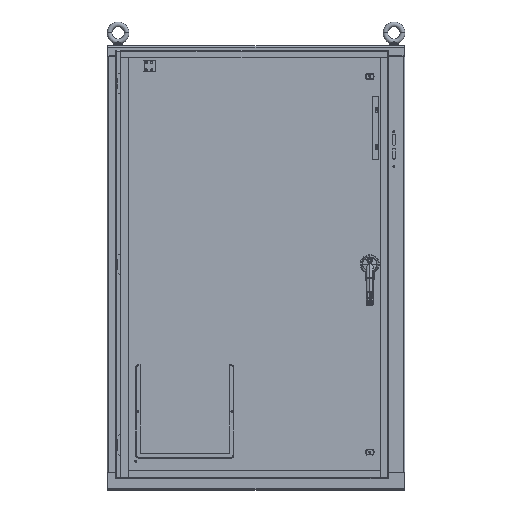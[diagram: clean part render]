
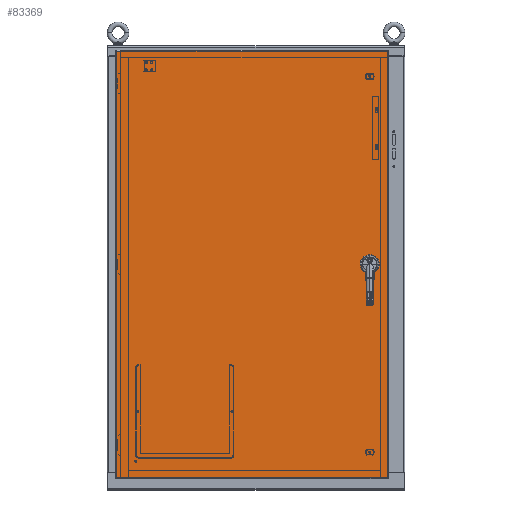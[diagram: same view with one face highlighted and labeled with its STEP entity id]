
A CAD part, top view. The second image highlights one B-rep face of the part: STEP entity #83369.
In plain terms, the highlighted planar face has unit normal (0, 0, 1).
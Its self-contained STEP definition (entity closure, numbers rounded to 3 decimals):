
#11225 = CARTESIAN_POINT ( 'NONE',  ( 16.779, 0., 0.072 ) ) ;
#17211 = CARTESIAN_POINT ( 'NONE',  ( 15.029, 0., 0.072 ) ) ;
#17695 = CARTESIAN_POINT ( 'NONE',  ( 15.654, 0., 0.072 ) ) ;
#18105 = CARTESIAN_POINT ( 'NONE',  ( 16.529, 0., 0.072 ) ) ;
#34675 = AXIS2_PLACEMENT_3D ( 'NONE', #94794, #94795, #94796 ) ;
#36575 = CARTESIAN_POINT ( 'NONE',  ( 15.279, 0., 0.072 ) ) ;
#37075 = CARTESIAN_POINT ( 'NONE',  ( 16.154, 0., 0.072 ) ) ;
#52941 = ORIENTED_EDGE ( 'NONE', *, *, #158581, .T. ) ;
#52991 = ORIENTED_EDGE ( 'NONE', *, *, #158573, .T. ) ;
#53002 = ORIENTED_EDGE ( 'NONE', *, *, #158589, .T. ) ;
#53047 = ORIENTED_EDGE ( 'NONE', *, *, #158579, .F. ) ;
#53084 = ORIENTED_EDGE ( 'NONE', *, *, #158575, .F. ) ;
#53118 = ORIENTED_EDGE ( 'NONE', *, *, #158574, .F. ) ;
#53175 = ORIENTED_EDGE ( 'NONE', *, *, #158545, .F. ) ;
#53688 = ORIENTED_EDGE ( 'NONE', *, *, #158541, .F. ) ;
#54025 = ORIENTED_EDGE ( 'NONE', *, *, #158621, .T. ) ;
#54411 = ORIENTED_EDGE ( 'NONE', *, *, #158551, .F. ) ;
#75218 = VERTEX_POINT ( 'NONE', #90028 ) ;
#75252 = VERTEX_POINT ( 'NONE', #94032 ) ;
#75903 = VERTEX_POINT ( 'NONE', #94250 ) ;
#76266 = VERTEX_POINT ( 'NONE', #94376 ) ;
#81028 = FACE_BOUND ( 'NONE', #128344, .T. ) ;
#81037 = FACE_BOUND ( 'NONE', #154997, .T. ) ;
#81043 = FACE_BOUND ( 'NONE', #154948, .T. ) ;
#81049 = FACE_OUTER_BOUND ( 'NONE', #154723, .T. ) ;
#83369 = ADVANCED_FACE ( 'NONE', ( #81028, #81037, #81043, #81049 ), #94791, .F. ) ;
#90028 = CARTESIAN_POINT ( 'NONE',  ( 18.302, 28.813, 0.072 ) ) ;
#94032 = CARTESIAN_POINT ( 'NONE',  ( -18.302, 28.813, 0.072 ) ) ;
#94250 = CARTESIAN_POINT ( 'NONE',  ( 18.302, -28.813, 0.072 ) ) ;
#94376 = CARTESIAN_POINT ( 'NONE',  ( -18.302, -28.812, 0.072 ) ) ;
#94791 = PLANE ( 'NONE',  #34675 ) ;
#94794 = CARTESIAN_POINT ( 'NONE',  ( -18.454, 28.965, 0.072 ) ) ;
#94795 = DIRECTION ( 'NONE',  ( 0., 0., -1. ) ) ;
#94796 = DIRECTION ( 'NONE',  ( -1., 0., 0. ) ) ;
#123866 = AXIS2_PLACEMENT_3D ( 'NONE', #178580, #178584, #178587 ) ;
#123869 = AXIS2_PLACEMENT_3D ( 'NONE', #178593, #178621, #178624 ) ;
#123870 = AXIS2_PLACEMENT_3D ( 'NONE', #178663, #178675, #178678 ) ;
#123884 = AXIS2_PLACEMENT_3D ( 'NONE', #178953, #178959, #178962 ) ;
#123885 = AXIS2_PLACEMENT_3D ( 'NONE', #178943, #178970, #178974 ) ;
#123887 = AXIS2_PLACEMENT_3D ( 'NONE', #178976, #179008, #179011 ) ;
#128344 = EDGE_LOOP ( 'NONE', ( #53118, #53688 ) ) ;
#149957 = CIRCLE ( 'NONE', #123866, 0.125 ) ;
#149966 = CIRCLE ( 'NONE', #123869, 0.125 ) ;
#149977 = CIRCLE ( 'NONE', #123870, 0.25 ) ;
#150019 = LINE ( 'NONE', #178946, #150020 ) ;
#150020 = VECTOR ( 'NONE', #178950, 39.37 ) ;
#150021 = LINE ( 'NONE', #179004, #150036 ) ;
#150025 = CIRCLE ( 'NONE', #123884, 0.125 ) ;
#150028 = CIRCLE ( 'NONE', #123885, 0.25 ) ;
#150036 = VECTOR ( 'NONE', #179028, 39.37 ) ;
#150038 = VECTOR ( 'NONE', #179168, 39.37 ) ;
#150039 = CIRCLE ( 'NONE', #123887, 0.125 ) ;
#150043 = LINE ( 'NONE', #179166, #150038 ) ;
#150121 = LINE ( 'NONE', #179437, #150123 ) ;
#150123 = VECTOR ( 'NONE', #179471, 39.37 ) ;
#154723 = EDGE_LOOP ( 'NONE', ( #54025, #52991, #52941, #53002 ) ) ;
#154948 = EDGE_LOOP ( 'NONE', ( #53084, #54411 ) ) ;
#154997 = EDGE_LOOP ( 'NONE', ( #53047, #53175 ) ) ;
#158541 = EDGE_CURVE ( 'NONE', #191110, #224443, #149957, .T. ) ;
#158545 = EDGE_CURVE ( 'NONE', #192172, #190294, #149966, .T. ) ;
#158551 = EDGE_CURVE ( 'NONE', #191695, #224921, #149977, .T. ) ;
#158573 = EDGE_CURVE ( 'NONE', #75903, #75218, #150019, .T. ) ;
#158574 = EDGE_CURVE ( 'NONE', #224443, #191110, #150025, .T. ) ;
#158575 = EDGE_CURVE ( 'NONE', #224921, #191695, #150028, .T. ) ;
#158579 = EDGE_CURVE ( 'NONE', #190294, #192172, #150039, .T. ) ;
#158581 = EDGE_CURVE ( 'NONE', #75218, #75252, #150021, .T. ) ;
#158589 = EDGE_CURVE ( 'NONE', #75252, #76266, #150043, .T. ) ;
#158621 = EDGE_CURVE ( 'NONE', #76266, #75903, #150121, .T. ) ;
#178580 = CARTESIAN_POINT ( 'NONE',  ( 15.154, 0., 0.072 ) ) ;
#178584 = DIRECTION ( 'NONE',  ( 0., 0., 1. ) ) ;
#178587 = DIRECTION ( 'NONE',  ( 1., 0., 0. ) ) ;
#178593 = CARTESIAN_POINT ( 'NONE',  ( 16.654, 0., 0.072 ) ) ;
#178621 = DIRECTION ( 'NONE',  ( 0., 0., 1. ) ) ;
#178624 = DIRECTION ( 'NONE',  ( 1., 0., 0. ) ) ;
#178663 = CARTESIAN_POINT ( 'NONE',  ( 15.904, 0., 0.072 ) ) ;
#178675 = DIRECTION ( 'NONE',  ( 0., 0., 1. ) ) ;
#178678 = DIRECTION ( 'NONE',  ( 1., 0., 0. ) ) ;
#178943 = CARTESIAN_POINT ( 'NONE',  ( 15.904, 0., 0.072 ) ) ;
#178946 = CARTESIAN_POINT ( 'NONE',  ( 18.302, -28.965, 0.072 ) ) ;
#178950 = DIRECTION ( 'NONE',  ( 0., 1., 0. ) ) ;
#178953 = CARTESIAN_POINT ( 'NONE',  ( 15.154, 0., 0.072 ) ) ;
#178959 = DIRECTION ( 'NONE',  ( 0., 0., 1. ) ) ;
#178962 = DIRECTION ( 'NONE',  ( 1., 0., 0. ) ) ;
#178970 = DIRECTION ( 'NONE',  ( 0., 0., 1. ) ) ;
#178974 = DIRECTION ( 'NONE',  ( 1., 0., 0. ) ) ;
#178976 = CARTESIAN_POINT ( 'NONE',  ( 16.654, 0., 0.072 ) ) ;
#179004 = CARTESIAN_POINT ( 'NONE',  ( 308.099, 28.813, 0.072 ) ) ;
#179008 = DIRECTION ( 'NONE',  ( 0., 0., 1. ) ) ;
#179011 = DIRECTION ( 'NONE',  ( 1., 0., 0. ) ) ;
#179028 = DIRECTION ( 'NONE',  ( -1., 0., 0. ) ) ;
#179166 = CARTESIAN_POINT ( 'NONE',  ( -18.302, 28.965, 0.072 ) ) ;
#179168 = DIRECTION ( 'NONE',  ( 0., -1., 0. ) ) ;
#179437 = CARTESIAN_POINT ( 'NONE',  ( -18.454, -28.813, 0.072 ) ) ;
#179471 = DIRECTION ( 'NONE',  ( 1., 0., 0. ) ) ;
#190294 = VERTEX_POINT ( 'NONE', #11225 ) ;
#191110 = VERTEX_POINT ( 'NONE', #17211 ) ;
#191695 = VERTEX_POINT ( 'NONE', #17695 ) ;
#192172 = VERTEX_POINT ( 'NONE', #18105 ) ;
#224443 = VERTEX_POINT ( 'NONE', #36575 ) ;
#224921 = VERTEX_POINT ( 'NONE', #37075 ) ;
